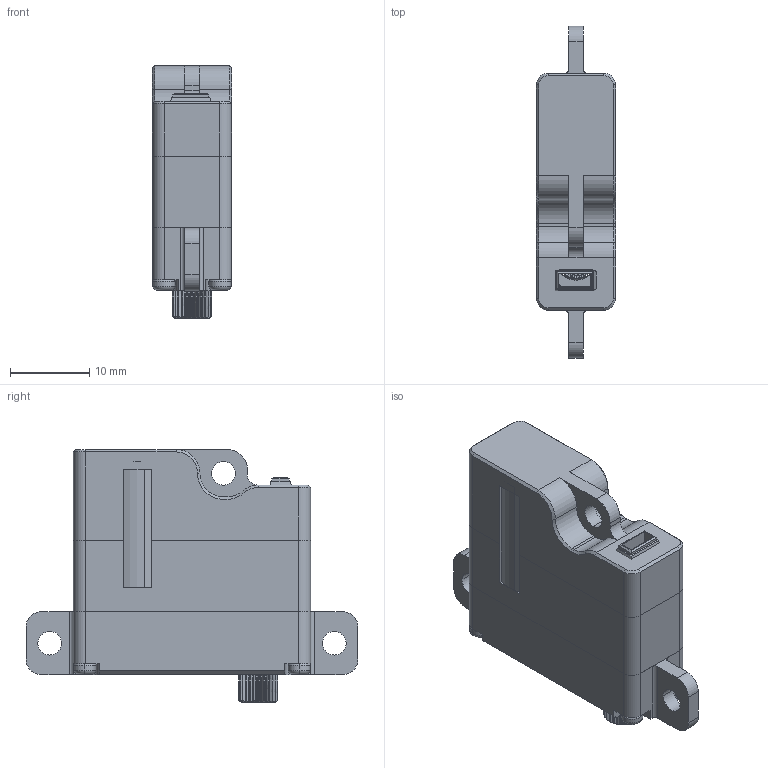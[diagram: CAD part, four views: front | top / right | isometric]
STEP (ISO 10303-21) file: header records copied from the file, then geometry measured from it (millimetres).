
FILE_DESCRIPTION (( 'STEP AP214' ), '1' );
FILE_NAME ('X10 Mini Pro-A_DM_20230717.STEP', '2023-07-25T08:38:30', ( '' ), ( '' ), 'SwSTEP 2.0', 'SolidWorks 2016', '' );
FILE_SCHEMA (( 'AUTOMOTIVE_DESIGN' ));
Length unit declared in the file: millimetre
Products named in the file (1): X10 Mini Pro-A_DM_20230717
Bounding box: 10 x 42 x 32 mm (x, y, z)
Surface area: 3817.8 mm2 (no closed solid volume)
Topology: 0 solids, 11 shells, 425 faces, 1228 edges, 804 vertices
Faces by surface type: cylinder 184, plane 133, bspline 50, cone 42, torus 16
Entity records: 20165 total; most frequent: CARTESIAN_POINT 4411, DIRECTION 2319, ORIENTED_EDGE 2276, EDGE_CURVE 1228, AXIS2_PLACEMENT_3D 866, VERTEX_POINT 804, VECTOR 587, LINE 587
